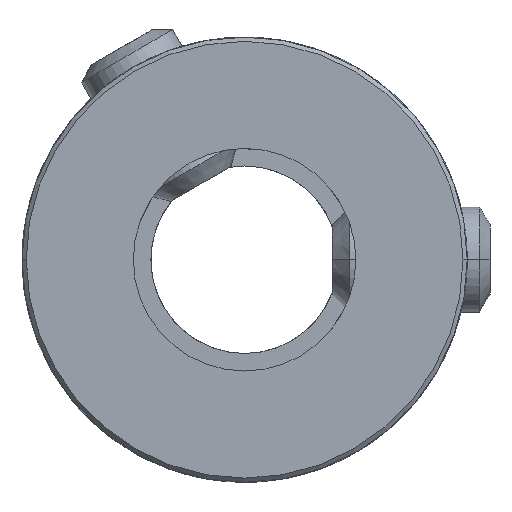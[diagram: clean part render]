
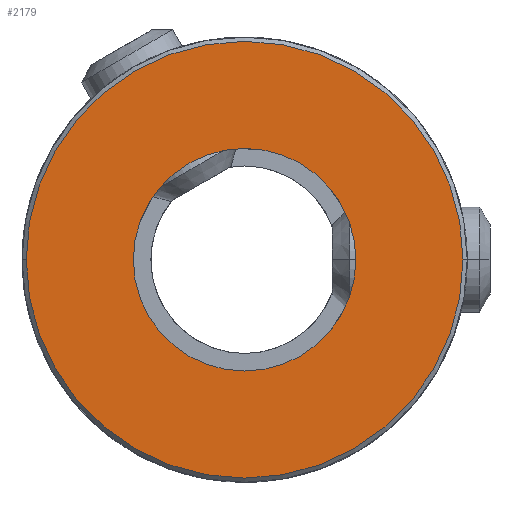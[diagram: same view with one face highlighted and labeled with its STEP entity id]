
A CAD part, front view. The second image highlights one B-rep face of the part: STEP entity #2179.
In plain terms, the highlighted planar face has unit normal (0, -1, 0).
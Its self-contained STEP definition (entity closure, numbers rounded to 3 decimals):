
#1=CARTESIAN_POINT('',(0.,-11.45,0.));
#2=DIRECTION('',(0.,-1.,0.));
#3=DIRECTION('',(-1.,0.,0.));
#4=AXIS2_PLACEMENT_3D('',#1,#2,#3);
#6=CARTESIAN_POINT('',(0.,-11.45,
0.));
#7=DIRECTION('',(0.,-1.,0.));
#8=DIRECTION('',(1.,0.,0.));
#9=AXIS2_PLACEMENT_3D('',#6,#7,#8);
#11=CARTESIAN_POINT('',(0.,-11.45,0.));
#12=DIRECTION('',(0.,1.,0.));
#13=DIRECTION('',(1.,0.,0.));
#14=AXIS2_PLACEMENT_3D('',#11,#12,#13);
#16=CARTESIAN_POINT('',(0.,-11.45,0.));
#17=DIRECTION('',(0.,1.,0.));
#18=DIRECTION('',(-1.,0.,0.));
#19=AXIS2_PLACEMENT_3D('',#16,#17,#18);
#1971=CARTESIAN_POINT('',(3.175,-11.45,0.));
#1972=CARTESIAN_POINT('',(-3.175,-11.45,0.));
#1973=VERTEX_POINT('',#1971);
#1974=VERTEX_POINT('',#1972);
#1991=CARTESIAN_POINT('',(-6.23,-11.45,0.));
#1992=CARTESIAN_POINT('',(6.23,-11.45,0.));
#1993=VERTEX_POINT('',#1991);
#1994=VERTEX_POINT('',#1992);
#2162=CARTESIAN_POINT('',(0.,-11.45,0.));
#2163=DIRECTION('',(0.,1.,0.));
#2164=DIRECTION('',(1.,0.,0.));
#2165=AXIS2_PLACEMENT_3D('',#2162,#2163,#2164);
#2166=PLANE('',#2165);
#2168=ORIENTED_EDGE('',*,*,#2167,.F.);
#2170=ORIENTED_EDGE('',*,*,#2169,.F.);
#2171=EDGE_LOOP('',(#2168,#2170));
#2172=FACE_OUTER_BOUND('',#2171,.F.);
#2174=ORIENTED_EDGE('',*,*,#2173,.F.);
#2176=ORIENTED_EDGE('',*,*,#2175,.F.);
#2177=EDGE_LOOP('',(#2174,#2176));
#2178=FACE_BOUND('',#2177,.F.);
#2179=ADVANCED_FACE('',(#2172,#2178),#2166,.F.);
#5=CIRCLE('',#4,6.23);
#10=CIRCLE('',#9,6.23);
#15=CIRCLE('',#14,3.175);
#20=CIRCLE('',#19,3.175);
#2167=EDGE_CURVE('',#1993,#1994,#5,.T.);
#2169=EDGE_CURVE('',#1994,#1993,#10,.T.);
#2173=EDGE_CURVE('',#1973,#1974,#15,.T.);
#2175=EDGE_CURVE('',#1974,#1973,#20,.T.);
